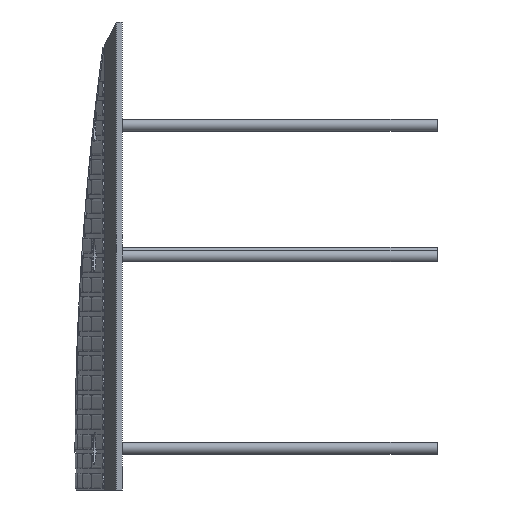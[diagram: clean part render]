
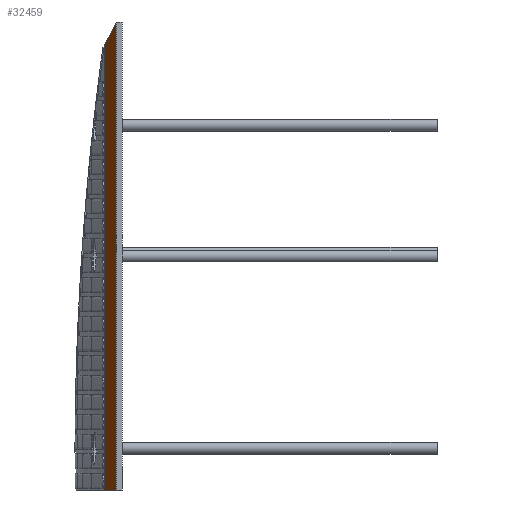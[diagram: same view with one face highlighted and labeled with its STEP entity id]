
A CAD part, left-side view. The second image highlights one B-rep face of the part: STEP entity #32459.
In plain terms, the highlighted planar face has unit normal (-0.454, 0.891, 0).
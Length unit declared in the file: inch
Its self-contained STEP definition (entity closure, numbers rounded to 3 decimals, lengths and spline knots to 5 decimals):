
#1371 = LINE ( 'NONE', #20470, #11063 ) ;
#2868 = LINE ( 'NONE', #24291, #70077 ) ;
#7896 = VERTEX_POINT ( 'NONE', #66102 ) ;
#9825 = LINE ( 'NONE', #11528, #55945 ) ;
#11063 = VECTOR ( 'NONE', #45438, 39.37008 ) ;
#11528 = CARTESIAN_POINT ( 'NONE',  ( -16.7, 0.75953, 19.7 ) ) ;
#15382 = CARTESIAN_POINT ( 'NONE',  ( -17.7, 0.25, 0. ) ) ;
#16338 = VERTEX_POINT ( 'NONE', #25077 ) ;
#20470 = CARTESIAN_POINT ( 'NONE',  ( -17.7, 0.25, 0. ) ) ;
#21879 = ORIENTED_EDGE ( 'NONE', *, *, #67615, .F. ) ;
#23238 = DIRECTION ( 'NONE',  ( 0.665, 0.339, -0.665 ) ) ;
#23521 = CARTESIAN_POINT ( 'NONE',  ( -17.7, 0.25, 19.7 ) ) ;
#24291 = CARTESIAN_POINT ( 'NONE',  ( -17.7, 0.25, 19.7 ) ) ;
#25077 = CARTESIAN_POINT ( 'NONE',  ( -16.7, 0.75953, 0. ) ) ;
#25160 = EDGE_CURVE ( 'NONE', #27716, #16338, #9825, .T. ) ;
#27629 = EDGE_CURVE ( 'NONE', #7896, #27716, #2868, .T. ) ;
#27716 = VERTEX_POINT ( 'NONE', #72098 ) ;
#32199 = ORIENTED_EDGE ( 'NONE', *, *, #25160, .T. ) ;
#32459 = ADVANCED_FACE ( 'NONE', ( #52654 ), #71837, .F. ) ;
#38130 = VERTEX_POINT ( 'NONE', #15382 ) ;
#38159 = ORIENTED_EDGE ( 'NONE', *, *, #40925, .T. ) ;
#40925 = EDGE_CURVE ( 'NONE', #16338, #38130, #1371, .T. ) ;
#45438 = DIRECTION ( 'NONE',  ( -0.891, -0.454, 0. ) ) ;
#48268 = AXIS2_PLACEMENT_3D ( 'NONE', #23521, #79287, #73177 ) ;
#52654 = FACE_OUTER_BOUND ( 'NONE', #75181, .T. ) ;
#53374 = VECTOR ( 'NONE', #57758, 39.37008 ) ;
#55945 = VECTOR ( 'NONE', #74041, 39.37008 ) ;
#57215 = LINE ( 'NONE', #63909, #53374 ) ;
#57758 = DIRECTION ( 'NONE',  ( 0., 0., -1. ) ) ;
#63909 = CARTESIAN_POINT ( 'NONE',  ( -17.7, 0.25, 19.7 ) ) ;
#66102 = CARTESIAN_POINT ( 'NONE',  ( -17.7, 0.25, 19.7 ) ) ;
#67615 = EDGE_CURVE ( 'NONE', #7896, #38130, #57215, .T. ) ;
#70077 = VECTOR ( 'NONE', #23238, 39.37008 ) ;
#71837 = PLANE ( 'NONE',  #48268 ) ;
#72098 = CARTESIAN_POINT ( 'NONE',  ( -16.7, 0.75953, 18.7 ) ) ;
#73177 = DIRECTION ( 'NONE',  ( 0.891, 0.454, 0. ) ) ;
#73997 = ORIENTED_EDGE ( 'NONE', *, *, #27629, .T. ) ;
#74041 = DIRECTION ( 'NONE',  ( 0., 0., -1. ) ) ;
#75181 = EDGE_LOOP ( 'NONE', ( #21879, #73997, #32199, #38159 ) ) ;
#79287 = DIRECTION ( 'NONE',  ( 0.454, -0.891, 0. ) ) ;
